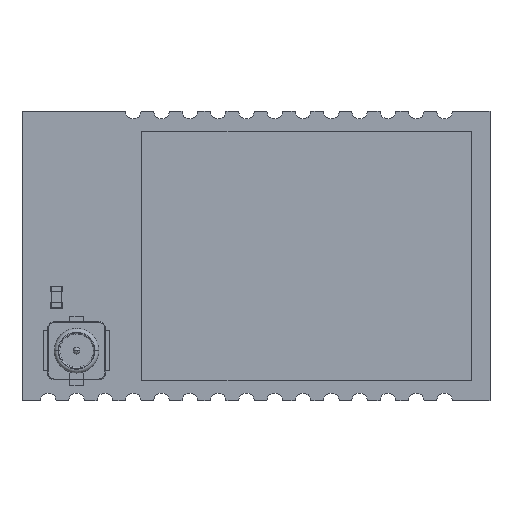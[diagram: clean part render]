
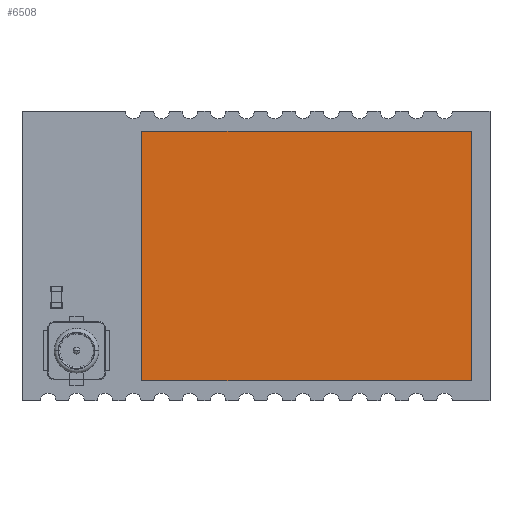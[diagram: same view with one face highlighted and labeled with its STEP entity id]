
A CAD part, top view. The second image highlights one B-rep face of the part: STEP entity #6508.
In plain terms, the highlighted planar face has unit normal (0, 0, 1).
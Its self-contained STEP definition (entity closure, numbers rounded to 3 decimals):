
#6379 = VERTEX_POINT('',#6380);
#6380 = CARTESIAN_POINT('',(-7.4,5.6,1.6));
#6386 = EDGE_CURVE('',#6379,#6387,#6389,.T.);
#6387 = VERTEX_POINT('',#6388);
#6388 = CARTESIAN_POINT('',(7.4,5.6,1.6));
#6389 = LINE('',#6390,#6391);
#6390 = CARTESIAN_POINT('',(-7.4,5.6,1.6));
#6391 = VECTOR('',#6392,1.);
#6392 = DIRECTION('',(1.,0.,0.));
#6417 = EDGE_CURVE('',#6387,#6418,#6420,.T.);
#6418 = VERTEX_POINT('',#6419);
#6419 = CARTESIAN_POINT('',(7.4,-5.6,1.6));
#6420 = LINE('',#6421,#6422);
#6421 = CARTESIAN_POINT('',(7.4,5.6,1.6));
#6422 = VECTOR('',#6423,1.);
#6423 = DIRECTION('',(0.,-1.,0.));
#6448 = EDGE_CURVE('',#6418,#6449,#6451,.T.);
#6449 = VERTEX_POINT('',#6450);
#6450 = CARTESIAN_POINT('',(-7.4,-5.6,1.6));
#6451 = LINE('',#6452,#6453);
#6452 = CARTESIAN_POINT('',(7.4,-5.6,1.6));
#6453 = VECTOR('',#6454,1.);
#6454 = DIRECTION('',(-1.,0.,0.));
#6479 = EDGE_CURVE('',#6449,#6379,#6480,.T.);
#6480 = LINE('',#6481,#6482);
#6481 = CARTESIAN_POINT('',(-7.4,-5.6,1.6));
#6482 = VECTOR('',#6483,1.);
#6483 = DIRECTION('',(0.,1.,0.));
#6508 = ADVANCED_FACE('',(#6509),#6515,.T.);
#6509 = FACE_BOUND('',#6510,.F.);
#6510 = EDGE_LOOP('',(#6511,#6512,#6513,#6514));
#6511 = ORIENTED_EDGE('',*,*,#6386,.T.);
#6512 = ORIENTED_EDGE('',*,*,#6417,.T.);
#6513 = ORIENTED_EDGE('',*,*,#6448,.T.);
#6514 = ORIENTED_EDGE('',*,*,#6479,.T.);
#6515 = PLANE('',#6516);
#6516 = AXIS2_PLACEMENT_3D('',#6517,#6518,#6519);
#6517 = CARTESIAN_POINT('',(-7.4,5.6,1.6));
#6518 = DIRECTION('',(0.,0.,1.));
#6519 = DIRECTION('',(1.,0.,0.));
